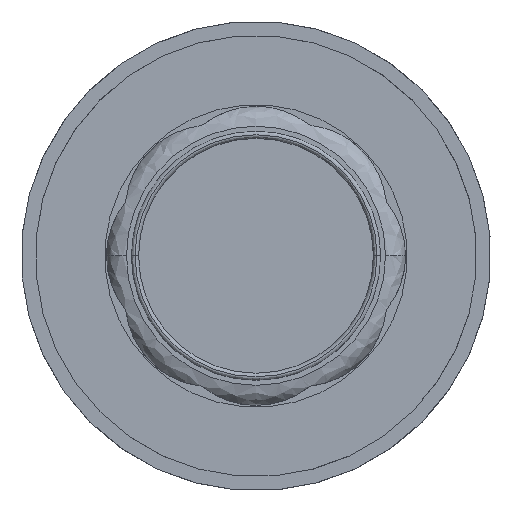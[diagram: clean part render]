
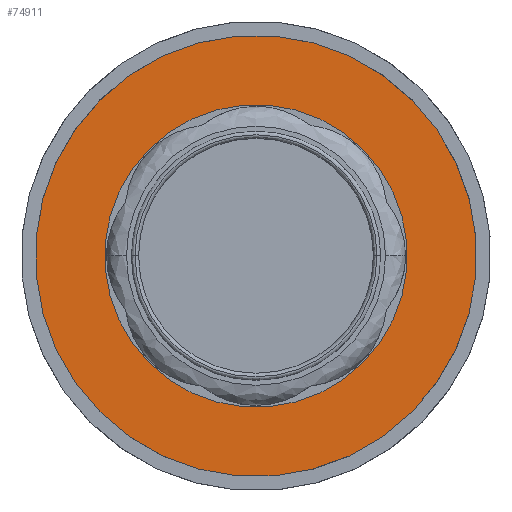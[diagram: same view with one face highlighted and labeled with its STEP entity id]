
A CAD part, top view. The second image highlights one B-rep face of the part: STEP entity #74911.
In plain terms, the highlighted planar face has unit normal (0, 0, 1) as drawn and (0, 0, -1) by its records, which use the part's own axes.
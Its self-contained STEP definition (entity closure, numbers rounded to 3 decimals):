
#74481=CARTESIAN_POINT(' ',(-21.25,0.,-1.5));
#74482=VERTEX_POINT(' ',#74481);
#74496=CARTESIAN_POINT(' ',(0.,0.,-1.5));
#74501=DIRECTION(' ',(0.,0.,-1.));
#74506=DIRECTION(' ',(-1.,0.,0.));
#74511=AXIS2_PLACEMENT_3D(' ',#74496,#74501,#74506);
#74516=CIRCLE('',#74511,21.25);
#74521=CARTESIAN_POINT(' ',(21.25,0.,-1.5));
#74522=VERTEX_POINT(' ',#74521);
#74526=EDGE_CURVE(' ',#74482,#74522,#74516,.T.);
#74691=CARTESIAN_POINT(' ',(0.,0.001,-1.5));
#74696=DIRECTION(' ',(0.,0.,-1.));
#74701=DIRECTION(' ',(1.,0.,0.));
#74706=AXIS2_PLACEMENT_3D(' ',#74691,#74696,#74701);
#74711=CIRCLE('',#74706,21.25);
#74716=EDGE_CURVE(' ',#74522,#74482,#74711,.T.);
#74741=DIRECTION(' ',(0.,0.,-1.));
#74746=CARTESIAN_POINT(' ',(31.,-31.506,-1.5));
#74751=DIRECTION(' ',(-1.,0.,-0.));
#74756=AXIS2_PLACEMENT_3D(' ',#74746,#74741,#74751);
#74761=PLANE('',#74756);
#74766=CARTESIAN_POINT(' ',(-31.,-0.081,-1.5));
#74771=DIRECTION(' ',(-0.001,1.,0.));
#74776=VECTOR(' ',#74771,1.);
#74781=LINE('',#74766,#74776);
#74786=CARTESIAN_POINT(' ',(-31.,-0.081,-1.5));
#74787=VERTEX_POINT(' ',#74786);
#74791=CARTESIAN_POINT(' ',(-31.,0.,-1.5));
#74792=VERTEX_POINT(' ',#74791);
#74796=EDGE_CURVE(' ',#74787,#74792,#74781,.T.);
#74801=ORIENTED_EDGE(' ',*,*,#74796,.T.);
#74806=CARTESIAN_POINT(' ',(0.,0.,-1.5));
#74811=DIRECTION(' ',(0.,-0.,-1.));
#74816=DIRECTION(' ',(-1.,0.,0.));
#74821=AXIS2_PLACEMENT_3D(' ',#74806,#74811,#74816);
#74826=CIRCLE('',#74821,31.);
#74831=CARTESIAN_POINT(' ',(31.,0.,-1.5));
#74832=VERTEX_POINT(' ',#74831);
#74836=EDGE_CURVE(' ',#74792,#74832,#74826,.T.);
#74841=ORIENTED_EDGE(' ',*,*,#74836,.T.);
#74846=CARTESIAN_POINT(' ',(0.,0.,-1.5));
#74851=DIRECTION(' ',(0.,0.,-1.));
#74856=DIRECTION(' ',(1.,0.,0.));
#74861=AXIS2_PLACEMENT_3D(' ',#74846,#74851,#74856);
#74866=CIRCLE('',#74861,31.);
#74871=EDGE_CURVE(' ',#74832,#74787,#74866,.T.);
#74876=ORIENTED_EDGE(' ',*,*,#74871,.T.);
#74881=EDGE_LOOP(' ',(#74801,#74841,#74876));
#74886=FACE_OUTER_BOUND(' ',#74881,.T.);
#74891=ORIENTED_EDGE(' ',*,*,#74716,.F.);
#74896=ORIENTED_EDGE(' ',*,*,#74526,.F.);
#74901=EDGE_LOOP(' ',(#74891,#74896));
#74906=FACE_BOUND(' ',#74901,.T.);
#74911=ADVANCED_FACE('',(#74886,#74906),#74761,.T.);
